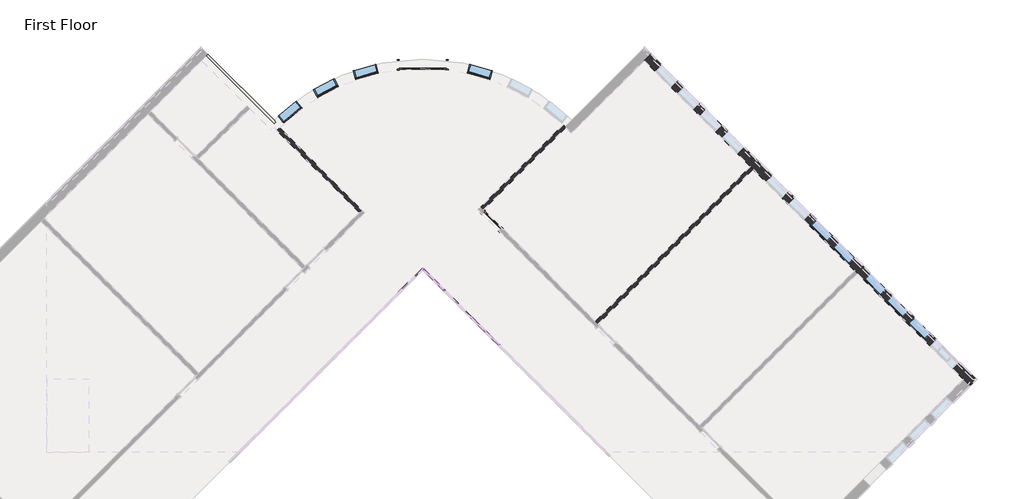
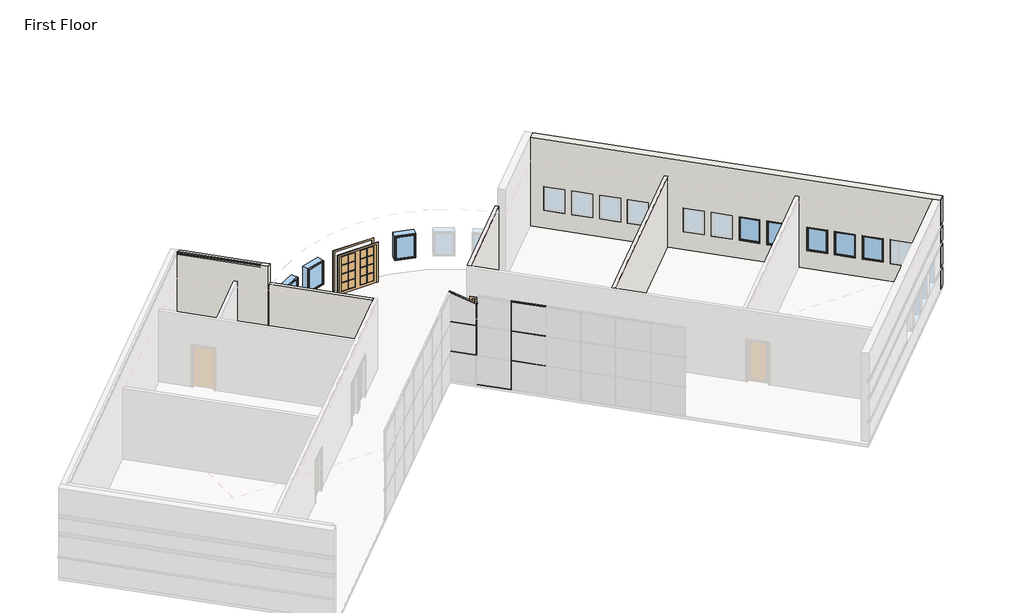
# One storey, part 4 of 5: 20 members, 9 windows, 5 walls, 2 doors.
"""IFC4 building model written with IfcOpenShell, lengths in millimetres."""

from ifc_helpers import new_model, si_unit, point, frame, frame_2d, origin, origin_with_axes, place, context, project, spatial, polyline, circle_curve, ellipse_curve, trimmed, segment, composite_curve, outline, extrude, faceted_brep, transform, mapped, element, save
from ifc_brep_helpers import plane_surface, cylinder_surface, revolved_surface, advanced_brep
from components import door_74f1c961, door_5f5b55da, member_b8a5b5c0, member_155beb68, member_42be4715, member_a3731390, member_6121af53, member_b87a50da, member_76f0c52a, member_beb33b19, member_b73a8a31, member_4ed907bf, window_15c49d37, window_0e2fc6ce

model = new_model("IFC4")

# Units and contexts
model_context = context("Model", 3, world=origin())
ifc_project = project(units=[si_unit("LENGTHUNIT", "METRE", prefix="MILLI")], contexts=[model_context])

# Site, building, storey
site = spatial("IfcSite", under=ifc_project)
building = spatial("IfcBuilding", under=site)
storey = spatial("IfcBuildingStorey", under=building, Name="First Floor", Elevation=0.0)

# Doors
placement = place(None, origin())
door_shape = door_74f1c961(model_context)
element("IfcDoor", 1, ObjectType="Double-Glass 2 : 72\" x 78\"", at=placement, inside=storey, context=model_context, shape_type="MappedRepresentation", body=[
    mapped(door_shape, transform((-3443.7425556, 10275.0854226, 0.0), x_axis=(-0.9999999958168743, -9.146721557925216e-05, 0.0), y_axis=(9.146721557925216e-05, -0.9999999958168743, 0.0), z_axis=(0.0, 0.0, 1.0))),
])
door_2_shape = door_5f5b55da(model_context)
element("IfcDoor", 2, ObjectType="Single-Glass 1 : 36\" x 84\"", at=placement, inside=storey, context=model_context, shape_type="MappedRepresentation", body=[
    mapped(door_2_shape, transform((-756.7914834, 4195.5530635, 0.0), x_axis=(-0.7071067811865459, 0.7071067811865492, 0.0), y_axis=(-0.7071067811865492, -0.7071067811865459, 0.0), z_axis=(0.0, 0.0, 1.0))),
])

# Members
member_shape = member_b8a5b5c0(model_context)
element("IfcMember", 3, ObjectType="Rectangular Mullion : 1.5\" x 2.5\" Rectangular", at=placement, inside=storey, context=model_context, shape_type="MappedRepresentation", body=[
    mapped(member_shape, transform((-3469.951364, 2295.1063619, 0.0), x_axis=(0.0, 0.0, -1.0), y_axis=(-0.7071067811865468, 0.7071067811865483, 0.0), z_axis=(0.7071067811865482, 0.7071067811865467, 0.0))),
])
member_2_shape = member_155beb68(model_context)
element("IfcMember", 4, ObjectType="Rectangular Mullion : 1.5\" x 2.5\" Rectangular", at=placement, inside=storey, context=model_context, shape_type="MappedRepresentation", body=[
    mapped(member_2_shape, transform((-1536.9512339, 415.9877686, 0.0), x_axis=(-0.7071067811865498, 0.7071067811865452, 0.0), y_axis=(0.7071067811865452, 0.7071067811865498, 0.0), z_axis=(0.0, 0.0, -1.0))),
])
member_3_shape = member_42be4715(model_context)
element("IfcMember", 5, ObjectType="Rectangular Mullion : 1.5\" x 2.5\" Rectangular", at=placement, inside=storey, context=model_context, shape_type="MappedRepresentation", body=[
    mapped(member_3_shape, transform((-1523.4808497, 402.5173844, 1524.0), x_axis=(0.0, 0.0, 1.0), y_axis=(0.7071067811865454, 0.7071067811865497, 0.0), z_axis=(-0.7071067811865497, 0.7071067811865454, 0.0))),
])
element("IfcMember", 6, ObjectType="Rectangular Mullion : 1.5\" x 2.5\" Rectangular", at=placement, inside=storey, context=model_context, shape_type="MappedRepresentation", body=[
    mapped(member_3_shape, transform((-1523.4808497, 402.5173844, 3048.0), x_axis=(0.0, 0.0, 1.0), y_axis=(0.7071067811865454, 0.7071067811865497, 0.0), z_axis=(-0.7071067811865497, 0.7071067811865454, 0.0))),
])
member_4_shape = member_a3731390(model_context)
element("IfcMember", 7, ObjectType="Rectangular Mullion : 1.5\" x 2.5\" Rectangular", at=placement, inside=storey, context=model_context, shape_type="MappedRepresentation", body=[
    mapped(member_4_shape, transform((-3416.0698272, 2295.1063619, 1524.0), x_axis=(0.0, 0.0, 1.0), y_axis=(0.7071067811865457, 0.7071067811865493, 0.0), z_axis=(-0.7071067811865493, 0.7071067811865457, 0.0))),
])
element("IfcMember", 8, ObjectType="Rectangular Mullion : 1.5\" x 2.5\" Rectangular", at=placement, inside=storey, context=model_context, shape_type="MappedRepresentation", body=[
    mapped(member_4_shape, transform((-3416.0698272, 2295.1063619, 3048.0), x_axis=(0.0, 0.0, 1.0), y_axis=(0.7071067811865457, 0.7071067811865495, 0.0), z_axis=(-0.7071067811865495, 0.7071067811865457, 0.0))),
])
member_5_shape = member_6121af53(model_context)
element("IfcMember", 9, ObjectType="Rectangular Mullion : 1.5\" x 2.5\" Rectangular", at=placement, inside=storey, context=model_context, shape_type="MappedRepresentation", body=[
    mapped(member_5_shape, transform((-1550.4216181, 429.4581527, 0.0), x_axis=(0.0, 0.0, -1.0), y_axis=(0.7071067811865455, 0.7071067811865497, 0.0), z_axis=(0.7071067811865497, -0.7071067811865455, 0.0))),
])
element("IfcMember", 10, ObjectType="Rectangular Mullion : 1.5\" x 2.5\" Rectangular", at=placement, inside=storey, context=model_context, shape_type="MappedRepresentation", body=[
    mapped(member_5_shape, transform((-1523.4808497, 402.5173844, 4572.0), x_axis=(0.0, 0.0, 1.0), y_axis=(0.7071067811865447, 0.7071067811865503, 0.0), z_axis=(-0.7071067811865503, 0.7071067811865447, 0.0))),
])
element("IfcMember", 11, ObjectType="Rectangular Mullion : 1.5\" x 2.5\" Rectangular", at=placement, inside=storey, context=model_context, shape_type="MappedRepresentation", body=[
    mapped(member_2_shape, transform((-1536.9512339, 415.9877686, 1524.0), x_axis=(-0.7071067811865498, 0.7071067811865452, 0.0), y_axis=(0.7071067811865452, 0.7071067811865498, 0.0), z_axis=(0.0, 0.0, -1.0))),
])
element("IfcMember", 12, ObjectType="Rectangular Mullion : 1.5\" x 2.5\" Rectangular", at=placement, inside=storey, context=model_context, shape_type="MappedRepresentation", body=[
    mapped(member_2_shape, transform((-2614.5819684, 1493.6185031, 1524.0), x_axis=(-0.7071067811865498, 0.7071067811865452, 0.0), y_axis=(0.7071067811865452, 0.7071067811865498, 0.0), z_axis=(0.0, 0.0, -1.0))),
])
element("IfcMember", 13, ObjectType="Rectangular Mullion : 1.5\" x 2.5\" Rectangular", at=placement, inside=storey, context=model_context, shape_type="MappedRepresentation", body=[
    mapped(member_2_shape, transform((-1536.9512339, 415.9877686, 3048.0), x_axis=(-0.7071067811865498, 0.7071067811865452, 0.0), y_axis=(0.7071067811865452, 0.7071067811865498, 0.0), z_axis=(0.0, 0.0, -1.0))),
])
member_6_shape = member_b87a50da(model_context)
element("IfcMember", 14, ObjectType="Rectangular Mullion : 1.5\" x 2.5\" Rectangular", at=placement, inside=storey, context=model_context, shape_type="MappedRepresentation", body=[
    mapped(member_6_shape, transform((-3443.0105956, 2322.0471303, 4572.0), x_axis=(0.7071067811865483, 0.7071067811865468, 0.0), y_axis=(-0.7071067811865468, 0.7071067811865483, 0.0), z_axis=(0.0, 0.0, 1.0))),
])
element("IfcMember", 15, ObjectType="Rectangular Mullion : 1.5\" x 2.5\" Rectangular", at=placement, inside=storey, context=model_context, shape_type="MappedRepresentation", body=[
    mapped(member_6_shape, transform((-3443.0105956, 2322.0471303, 0.0), x_axis=(-0.7071067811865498, 0.7071067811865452, 0.0), y_axis=(0.7071067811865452, 0.7071067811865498, 0.0), z_axis=(0.0, 0.0, -1.0))),
])
element("IfcMember", 16, ObjectType="Rectangular Mullion : 1.5\" x 2.5\" Rectangular", at=placement, inside=storey, context=model_context, shape_type="MappedRepresentation", body=[
    mapped(member_6_shape, transform((-3443.0105956, 2322.0471303, 1524.0), x_axis=(-0.7071067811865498, 0.7071067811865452, 0.0), y_axis=(0.7071067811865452, 0.7071067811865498, 0.0), z_axis=(0.0, 0.0, -1.0))),
])
element("IfcMember", 17, ObjectType="Rectangular Mullion : 1.5\" x 2.5\" Rectangular", at=placement, inside=storey, context=model_context, shape_type="MappedRepresentation", body=[
    mapped(member_6_shape, transform((-3443.0105956, 2322.0471303, 1524.0), x_axis=(0.7071067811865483, 0.7071067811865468, 0.0), y_axis=(-0.7071067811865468, 0.7071067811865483, 0.0), z_axis=(0.0, 0.0, 1.0))),
])
element("IfcMember", 18, ObjectType="Rectangular Mullion : 1.5\" x 2.5\" Rectangular", at=placement, inside=storey, context=model_context, shape_type="MappedRepresentation", body=[
    mapped(member_6_shape, transform((-3443.0105956, 2322.0471303, 3048.0), x_axis=(0.7071067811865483, 0.7071067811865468, 0.0), y_axis=(-0.7071067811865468, 0.7071067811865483, 0.0), z_axis=(0.0, 0.0, 1.0))),
])
member_7_shape = member_76f0c52a(model_context)
element("IfcMember", 19, ObjectType="Rectangular Mullion : 1.5\" x 2.5\" Rectangular", at=placement, inside=storey, context=model_context, shape_type="MappedRepresentation", body=[
    mapped(member_7_shape, transform((-3443.0105956, 2322.0471303, 4572.0), x_axis=(0.22360679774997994, -0.2236067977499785, 0.9486832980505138), y_axis=(0.7071067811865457, 0.7071067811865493, 0.0), z_axis=(-0.6708203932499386, 0.6708203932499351, 0.3162277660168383))),
])
member_8_shape = member_beb33b19(model_context)
element("IfcMember", 20, ObjectType="Rectangular Mullion : 1.5\" x 2.5\" Rectangular", at=placement, inside=storey, context=model_context, shape_type="MappedRepresentation", body=[
    mapped(member_8_shape, transform((-2614.5819684, 1493.6185031, 4181.475), x_axis=(0.22360679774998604, -0.22360679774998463, 0.9486832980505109), y_axis=(0.7071067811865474, 0.7071067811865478, 0.0), z_axis=(-0.6708203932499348, 0.6708203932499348, 0.31622776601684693))),
])
member_9_shape = member_b73a8a31(model_context)
element("IfcMember", 21, ObjectType="Rectangular Mullion : 1.5\" x 2.5\" Rectangular", at=placement, inside=storey, context=model_context, shape_type="MappedRepresentation", body=[
    mapped(member_9_shape, transform((-2614.5819684, 1493.6185031, 3048.0), x_axis=(-0.7071067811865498, 0.7071067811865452, 0.0), y_axis=(0.7071067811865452, 0.7071067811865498, 0.0), z_axis=(0.0, 0.0, -1.0))),
])
member_10_shape = member_4ed907bf(model_context)
element("IfcMember", 22, ObjectType="Rectangular Mullion : 1.5\" x 2.5\" Rectangular", at=placement, inside=storey, context=model_context, shape_type="MappedRepresentation", body=[
    mapped(member_10_shape, transform((-3443.0105956, 2322.0471303, 3048.0), x_axis=(-0.7071067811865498, 0.7071067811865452, 0.0), y_axis=(0.7071067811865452, 0.7071067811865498, 0.0), z_axis=(0.0, 0.0, -1.0))),
])

# Walls
element("IfcWall", 23, ObjectType="Exterior - Split Face and CMU on Mtl. Stud", at=placement, inside=storey, context=model_context, shape_type="Brep", body=[
    faceted_brep([(5178.0352806, 10444.6887918, 0.0), (9308.9530963, 6313.7709761, 0.0), (9418.9612338, 6203.7628386, 0.0), (13370.2739271, 2252.4501453, 0.0), (13480.2820645, 2142.4420078, 0.0), (17611.1998802, -1988.4758079, 0.0), (17860.4019876, -2237.6779152, 0.0), (17860.4019876, -2237.6779152, 1016.0), (17795.2951307, -2172.5710583, 1016.0), (17795.2951307, -2172.5710583, 1085.85), (17860.4019876, -2237.6779152, 1085.85), (17860.4019876, -2237.6779152, 2133.6), (17795.2951307, -2172.5710583, 2133.6), (17795.2951307, -2172.5710583, 2336.8), (17860.4019876, -2237.6779152, 2336.8), (17860.4019876, -2237.6779152, 3048.0), (17795.2951307, -2172.5710583, 3048.0), (17795.2951307, -2172.5710583, 3251.2), (17860.4019876, -2237.6779152, 3251.2), (17860.4019876, -2237.6779152, 4572.0), (17611.1998802, -1988.4758079, 4572.0), (5178.0352806, 10444.6887918, 4572.0), (17196.9855667, -1574.2614943, 2133.6), (17196.9855667, -1574.2614943, 914.4), (16301.2050186, -678.4809462, 914.4), (16301.2050186, -678.4809462, 2133.6), (5592.2495942, 10030.4744782, 914.4), (5592.2495942, 10030.4744782, 2133.6), (6238.8280349, 9383.8960375, 2133.6), (6238.8280349, 9383.8960375, 914.4), (6454.3541818, 9168.3698906, 914.4), (6454.3541818, 9168.3698906, 2133.6), (7100.9326225, 8521.7914498, 2133.6), (7100.9326225, 8521.7914498, 914.4), (7316.4587694, 8306.2653029, 914.4), (7316.4587694, 8306.2653029, 2133.6), (7963.0372102, 7659.6868622, 2133.6), (7963.0372102, 7659.6868622, 914.4), (8178.5633571, 7444.1607153, 914.4), (8178.5633571, 7444.1607153, 2133.6), (8825.1417978, 6797.5822746, 2133.6), (8825.1417978, 6797.5822746, 914.4), (10549.350973, 5073.3730993, 2133.6), (10549.350973, 5073.3730993, 914.4), (9902.7725323, 5719.9515401, 914.4), (9902.7725323, 5719.9515401, 2133.6), (11411.4555607, 4211.2685117, 2133.6), (11411.4555607, 4211.2685117, 914.4), (10764.8771199, 4857.8469524, 914.4), (10764.8771199, 4857.8469524, 2133.6), (12273.5601483, 3349.1639241, 2133.6), (12273.5601483, 3349.1639241, 914.4), (11626.9817076, 3995.7423648, 914.4), (11626.9817076, 3995.7423648, 2133.6), (13135.6647359, 2487.0593365, 2133.6), (13135.6647359, 2487.0593365, 914.4), (12489.0862952, 3133.6377772, 914.4), (12489.0862952, 3133.6377772, 2133.6), (15439.100431, 183.6236414, 914.4), (15439.100431, 183.6236414, 2133.6), (16085.6788717, -462.9547993, 2133.6), (16085.6788717, -462.9547993, 914.4), (14576.9958433, 1045.728229, 914.4), (14576.9958433, 1045.728229, 2133.6), (15223.574284, 399.1497883, 2133.6), (15223.574284, 399.1497883, 914.4), (13714.8912557, 1907.8328167, 914.4), (13714.8912557, 1907.8328167, 2133.6), (14361.4696964, 1261.2543759, 2133.6), (14361.4696964, 1261.2543759, 914.4), (5427.237388, 10693.8908991, 4572.0), (18109.604095, -1988.4758079, 4572.0), (18109.604095, -1988.4758079, 3251.2), (5427.237388, 10693.8908991, 3251.2), (18109.604095, -1988.4758079, 0.0), (5427.237388, 10693.8908991, 0.0), (5427.237388, 10693.8908991, 1016.0), (5841.4517016, 10279.6765855, 1016.0), (5841.4517016, 10279.6765855, 914.4), (6488.0301423, 9633.0981448, 914.4), (6488.0301423, 9633.0981448, 1016.0), (6703.5562892, 9417.5719979, 1016.0), (6703.5562892, 9417.5719979, 914.4), (7350.1347299, 8770.9935572, 914.4), (7350.1347299, 8770.9935572, 1016.0), (7565.6608768, 8555.4674103, 1016.0), (7565.6608768, 8555.4674103, 914.4), (8212.2393175, 7908.8889696, 914.4), (8212.2393175, 7908.8889696, 1016.0), (8427.7654644, 7693.3628227, 1016.0), (8427.7654644, 7693.3628227, 914.4), (9074.3439051, 7046.7843819, 914.4), (9074.3439051, 7046.7843819, 1016.0), (10151.9746397, 5969.1536474, 1016.0), (10151.9746397, 5969.1536474, 914.4), (10798.5530804, 5322.5752067, 914.4), (10798.5530804, 5322.5752067, 1016.0), (11014.0792273, 5107.0490598, 1016.0), (11014.0792273, 5107.0490598, 914.4), (11660.657668, 4460.4706191, 914.4), (11660.657668, 4460.4706191, 1016.0), (11876.1838149, 4244.9444722, 1016.0), (11876.1838149, 4244.9444722, 914.4), (12522.7622556, 3598.3660315, 914.4), (12522.7622556, 3598.3660315, 1016.0), (12738.2884025, 3382.8398846, 1016.0), (12738.2884025, 3382.8398846, 914.4), (13384.8668433, 2736.2614438, 914.4), (13384.8668433, 2736.2614438, 1016.0), (13964.0933631, 2157.034924, 1016.0), (13964.0933631, 2157.034924, 914.4), (14610.6718038, 1510.4564833, 914.4), (14610.6718038, 1510.4564833, 1016.0), (14826.1979507, 1294.9303364, 1016.0), (14826.1979507, 1294.9303364, 914.4), (15472.7763914, 648.3518957, 914.4), (15472.7763914, 648.3518957, 1016.0), (15688.3025383, 432.8257488, 1016.0), (15688.3025383, 432.8257488, 914.4), (16334.880979, -213.7526919, 914.4), (16334.880979, -213.7526919, 1016.0), (16550.4071259, -429.2788388, 1016.0), (16550.4071259, -429.2788388, 914.4), (17446.187674, -1325.0593869, 914.4), (17446.187674, -1325.0593869, 1016.0), (18109.604095, -1988.4758079, 1016.0), (18109.604095, -1988.4758079, 1085.85), (17446.187674, -1325.0593869, 1085.85), (17446.187674, -1325.0593869, 2133.6), (18109.604095, -1988.4758079, 2133.6), (5841.4517016, 10279.6765855, 1085.85), (5427.237388, 10693.8908991, 1085.85), (5427.237388, 10693.8908991, 2133.6), (5841.4517016, 10279.6765855, 2133.6), (18109.604095, -1988.4758079, 2336.8), (5427.237388, 10693.8908991, 2336.8), (5427.237388, 10693.8908991, 3048.0), (18109.604095, -1988.4758079, 3048.0), (16334.880979, -213.7526919, 2133.6), (16550.4071259, -429.2788388, 2133.6), (16550.4071259, -429.2788388, 1085.85), (16334.880979, -213.7526919, 1085.85), (6488.0301423, 9633.0981448, 1085.85), (6488.0301423, 9633.0981448, 2133.6), (6703.5562892, 9417.5719979, 2133.6), (6703.5562892, 9417.5719979, 1085.85), (15472.7763914, 648.3518957, 2133.6), (15688.3025383, 432.8257488, 2133.6), (15688.3025383, 432.8257488, 1085.85), (15472.7763914, 648.3518957, 1085.85), (7350.1347299, 8770.9935572, 1085.85), (7350.1347299, 8770.9935572, 2133.6), (7565.6608768, 8555.4674103, 2133.6), (7565.6608768, 8555.4674103, 1085.85), (14610.6718038, 1510.4564833, 2133.6), (14826.1979507, 1294.9303364, 2133.6), (14826.1979507, 1294.9303364, 1085.85), (14610.6718038, 1510.4564833, 1085.85), (8212.2393175, 7908.8889696, 1085.85), (8212.2393175, 7908.8889696, 2133.6), (8427.7654644, 7693.3628227, 2133.6), (8427.7654644, 7693.3628227, 1085.85), (13384.8668433, 2736.2614438, 2133.6), (13964.0933631, 2157.034924, 2133.6), (13964.0933631, 2157.034924, 1085.85), (13384.8668433, 2736.2614438, 1085.85), (9074.3439051, 7046.7843819, 1085.85), (9074.3439051, 7046.7843819, 2133.6), (10151.9746397, 5969.1536474, 2133.6), (10151.9746397, 5969.1536474, 1085.85), (12522.7622556, 3598.3660315, 2133.6), (12738.2884025, 3382.8398846, 2133.6), (12738.2884025, 3382.8398846, 1085.85), (12522.7622556, 3598.3660315, 1085.85), (10798.5530804, 5322.5752067, 1085.85), (10798.5530804, 5322.5752067, 2133.6), (11014.0792273, 5107.0490598, 2133.6), (11014.0792273, 5107.0490598, 1085.85), (11660.657668, 4460.4706191, 1085.85), (11660.657668, 4460.4706191, 2133.6), (11876.1838149, 4244.9444722, 2133.6), (11876.1838149, 4244.9444722, 1085.85), (5362.1305311, 10628.7840422, 0.0), (18044.4972381, -2053.5826647, 0.0), (17979.3903812, -1988.4758079, 1085.85), (17381.0808171, -1390.1662438, 1085.85), (17381.0808171, -1390.1662438, 1016.0), (17979.3903812, -1988.4758079, 1016.0), (17979.3903812, -1988.4758079, 2133.6), (17381.0808171, -1390.1662438, 2133.6), (16485.3002691, -494.3856957, 2133.6), (16269.7741222, -278.8595488, 2133.6), (15623.1956814, 367.7188919, 2133.6), (15407.6695345, 583.2450388, 2133.6), (14761.0910938, 1229.8234795, 2133.6), (14545.5649469, 1445.3496264, 2133.6), (13898.9865062, 2091.9280671, 2133.6), (13319.7599864, 2671.154587, 2133.6), (12673.1815457, 3317.7330277, 2133.6), (12457.6553988, 3533.2591746, 2133.6), (11811.076958, 4179.8376153, 2133.6), (11595.5508111, 4395.3637622, 2133.6), (10948.9723704, 5041.9422029, 2133.6), (10733.4462235, 5257.4683498, 2133.6), (10086.8677828, 5904.0467905, 2133.6), (9009.2370483, 6981.6775251, 2133.6), (8362.6586076, 7628.2559658, 2133.6), (8147.1324606, 7843.7821127, 2133.6), (7500.5540199, 8490.3605534, 2133.6), (7285.027873, 8705.8867003, 2133.6), (6638.4494323, 9352.465141, 2133.6), (6422.9232854, 9567.9912879, 2133.6), (5776.3448447, 10214.5697287, 2133.6), (5362.1305311, 10628.7840422, 2133.6), (5362.1305311, 10628.7840422, 2336.8), (17979.3903812, -1988.4758079, 2336.8), (17979.3903812, -1988.4758079, 3251.2), (17979.3903812, -1988.4758079, 3048.0), (5362.1305311, 10628.7840422, 3048.0), (5362.1305311, 10628.7840422, 3251.2), (5362.1305311, 10628.7840422, 1085.85), (5362.1305311, 10628.7840422, 1016.0), (5776.3448447, 10214.5697287, 1085.85), (5776.3448447, 10214.5697287, 1016.0), (16269.7741222, -278.8595488, 1085.85), (16485.3002691, -494.3856957, 1085.85), (16485.3002691, -494.3856957, 1016.0), (16269.7741222, -278.8595488, 1016.0), (6422.9232854, 9567.9912879, 1085.85), (6422.9232854, 9567.9912879, 1016.0), (15407.6695345, 583.2450388, 1085.85), (15623.1956814, 367.7188919, 1085.85), (15623.1956814, 367.7188919, 1016.0), (15407.6695345, 583.2450388, 1016.0), (6638.4494323, 9352.465141, 1016.0), (6638.4494323, 9352.465141, 1085.85), (7285.027873, 8705.8867003, 1085.85), (7285.027873, 8705.8867003, 1016.0), (14545.5649469, 1445.3496264, 1085.85), (14761.0910938, 1229.8234795, 1085.85), (14761.0910938, 1229.8234795, 1016.0), (14545.5649469, 1445.3496264, 1016.0), (7500.5540199, 8490.3605534, 1016.0), (7500.5540199, 8490.3605534, 1085.85), (8147.1324606, 7843.7821127, 1085.85), (8147.1324606, 7843.7821127, 1016.0), (13319.7599864, 2671.154587, 1085.85), (13898.9865062, 2091.9280671, 1085.85), (13898.9865062, 2091.9280671, 1016.0), (13319.7599864, 2671.154587, 1016.0), (8362.6586076, 7628.2559658, 1016.0), (8362.6586076, 7628.2559658, 1085.85), (9009.2370483, 6981.6775251, 1085.85), (9009.2370483, 6981.6775251, 1016.0), (12457.6553988, 3533.2591746, 1085.85), (12673.1815457, 3317.7330277, 1085.85), (12673.1815457, 3317.7330277, 1016.0), (12457.6553988, 3533.2591746, 1016.0), (10733.4462235, 5257.4683498, 1085.85), (10733.4462235, 5257.4683498, 1016.0), (10086.8677828, 5904.0467905, 1016.0), (10086.8677828, 5904.0467905, 1085.85), (11595.5508111, 4395.3637622, 1085.85), (11595.5508111, 4395.3637622, 1016.0), (10948.9723704, 5041.9422029, 1016.0), (10948.9723704, 5041.9422029, 1085.85), (11811.076958, 4179.8376153, 1016.0), (11811.076958, 4179.8376153, 1085.85)], [[[0, 1, 2, 3, 4, 5, 6, 7, 8, 9, 10, 11, 12, 13, 14, 15, 16, 17, 18, 19, 20, 21], [22, 23, 24, 25], [26, 27, 28, 29], [30, 31, 32, 33], [34, 35, 36, 37], [38, 39, 40, 41], [42, 43, 44, 45], [46, 47, 48, 49], [50, 51, 52, 53], [54, 55, 56, 57], [58, 59, 60, 61], [62, 63, 64, 65], [66, 67, 68, 69]], [[70, 71, 72, 73]], [[74, 75, 76, 77, 78, 79, 80, 81, 82, 83, 84, 85, 86, 87, 88, 89, 90, 91, 92, 93, 94, 95, 96, 97, 98, 99, 100, 101, 102, 103, 104, 105, 106, 107, 108, 109, 110, 111, 112, 113, 114, 115, 116, 117, 118, 119, 120, 121, 122, 123, 124, 125]], [[126, 127, 128, 129]], [[130, 131, 132, 133]], [[134, 135, 136, 137]], [[138, 139, 140, 141]], [[142, 143, 144, 145]], [[146, 147, 148, 149]], [[150, 151, 152, 153]], [[154, 155, 156, 157]], [[158, 159, 160, 161]], [[162, 163, 164, 165]], [[166, 167, 168, 169]], [[170, 171, 172, 173]], [[174, 175, 176, 177]], [[178, 179, 180, 181]], [[21, 20, 19, 71, 70]], [[6, 5, 4, 3, 2, 1, 0, 182, 183]], [[184, 185, 127, 126, 10, 9]], [[186, 187, 8, 7, 125, 124]], [[185, 184, 187, 186]], [[188, 189, 190, 191, 192, 193, 194, 195, 196, 197, 198, 199, 200, 201, 202, 203, 204, 205, 206, 207, 208, 209, 210, 211, 212, 213, 214, 215]], [[216, 217, 218, 219]], [[0, 21, 70, 73, 219, 218, 136, 135, 214, 213, 132, 131, 220, 221, 76, 75, 182]], [[75, 74, 183, 182]], [[131, 130, 222, 220]], [[77, 76, 221, 223]], [[132, 213, 212, 133]], [[189, 188, 12, 11, 129, 128]], [[139, 138, 191, 190]], [[143, 211, 210, 144]], [[147, 146, 193, 192]], [[151, 209, 208, 152]], [[155, 154, 195, 194]], [[159, 207, 206, 160]], [[163, 162, 197, 196]], [[167, 205, 204, 168]], [[171, 170, 199, 198]], [[201, 200, 180, 179]], [[203, 202, 176, 175]], [[215, 214, 135, 134, 14, 13]], [[218, 217, 16, 15, 137, 136]], [[17, 216, 219, 73, 72, 18]], [[71, 19, 18, 72]], [[6, 183, 74, 125, 7]], [[14, 134, 137, 15]], [[11, 10, 126, 129]], [[188, 215, 13, 12]], [[217, 216, 17, 16]], [[23, 123, 122, 24]], [[23, 22, 189, 128, 127, 185, 186, 124, 123]], [[189, 22, 25, 190]], [[224, 225, 226, 227]], [[27, 26, 78, 77, 223, 222, 130, 133, 212]], [[79, 78, 26, 29]], [[29, 28, 211, 143, 142, 228, 229, 80, 79]], [[28, 27, 212, 211]], [[230, 231, 232, 233]], [[225, 224, 141, 140]], [[227, 226, 121, 120]], [[31, 30, 82, 81, 234, 235, 145, 144, 210]], [[83, 82, 30, 33]], [[33, 32, 209, 151, 150, 236, 237, 84, 83]], [[32, 31, 210, 209]], [[238, 239, 240, 241]], [[231, 230, 149, 148]], [[233, 232, 117, 116]], [[35, 34, 86, 85, 242, 243, 153, 152, 208]], [[87, 86, 34, 37]], [[37, 36, 207, 159, 158, 244, 245, 88, 87]], [[36, 35, 208, 207]], [[246, 247, 248, 249]], [[239, 238, 157, 156]], [[241, 240, 113, 112]], [[39, 38, 90, 89, 250, 251, 161, 160, 206]], [[91, 90, 38, 41]], [[41, 40, 205, 167, 166, 252, 253, 92, 91]], [[40, 39, 206, 205]], [[254, 255, 256, 257]], [[247, 246, 165, 164]], [[249, 248, 109, 108]], [[43, 42, 203, 175, 174, 258, 259, 96, 95]], [[44, 43, 95, 94]], [[45, 44, 94, 93, 260, 261, 169, 168, 204]], [[42, 45, 204, 203]], [[47, 46, 201, 179, 178, 262, 263, 100, 99]], [[48, 47, 99, 98]], [[49, 48, 98, 97, 264, 265, 177, 176, 202]], [[46, 49, 202, 201]], [[51, 50, 199, 170, 173, 254, 257, 104, 103]], [[52, 51, 103, 102]], [[53, 52, 102, 101, 266, 267, 181, 180, 200]], [[50, 53, 200, 199]], [[55, 54, 197, 162, 165, 246, 249, 108, 107]], [[56, 55, 107, 106]], [[57, 56, 106, 105, 256, 255, 172, 171, 198]], [[54, 57, 198, 197]], [[244, 251, 250, 245]], [[261, 252, 166, 169]], [[253, 260, 93, 92]], [[252, 261, 260, 253]], [[265, 258, 174, 177]], [[259, 264, 97, 96]], [[258, 265, 264, 259]], [[267, 262, 178, 181]], [[263, 266, 101, 100]], [[262, 267, 266, 263]], [[255, 254, 173, 172]], [[257, 256, 105, 104]], [[24, 122, 121, 226, 225, 140, 139, 190, 25]], [[59, 58, 118, 117, 232, 231, 148, 147, 192]], [[119, 118, 58, 61]], [[61, 60, 191, 138, 141, 224, 227, 120, 119]], [[60, 59, 192, 191]], [[63, 62, 114, 113, 240, 239, 156, 155, 194]], [[115, 114, 62, 65]], [[65, 64, 193, 146, 149, 230, 233, 116, 115]], [[64, 63, 194, 193]], [[67, 66, 110, 109, 248, 247, 164, 163, 196]], [[111, 110, 66, 69]], [[69, 68, 195, 154, 157, 238, 241, 112, 111]], [[68, 67, 196, 195]], [[220, 222, 223, 221]], [[235, 228, 142, 145]], [[229, 234, 81, 80]], [[228, 235, 234, 229]], [[243, 236, 150, 153]], [[237, 242, 85, 84]], [[236, 243, 242, 237]], [[251, 244, 158, 161]], [[245, 250, 89, 88]], [[187, 184, 9, 8]]]),
])
element("IfcWall", 24, ObjectType="Exterior - Split Face and CMU on Mtl. Stud", at=placement, inside=storey, context=model_context, shape_type="AdvancedBrep", body=[
    advanced_brep(
    [(-9232.9945042, 7613.6268242, 0.0), (-9232.9945042, 7613.6268242, 4689.475), (-12064.0564718, 10444.6887918, 4689.475), (-12064.0564718, 10444.6887918, 4639.3965909), (-9486.6705627, 7867.3028826, 4639.3965909), (-9486.6705627, 7867.3028826, 4572.0), (-12064.0564718, 10444.6887918, 4572.0), (-12064.0564718, 10444.6887918, 0.0), (-10303.9262721, 8684.558592, 0.0), (-10193.9181346, 8574.5504545, 0.0), (-11814.8543645, 10693.8908991, 0.0), (-11814.8543645, 10693.8908991, 1016.0), (-9237.4684553, 8116.50499, 1016.0), (-9172.3610055, 8051.3975402, 1016.0), (-9172.3610055, 8051.3975402, 1085.85), (-9237.4684553, 8116.50499, 1085.85), (-11814.8543645, 10693.8908991, 1085.85), (-11814.8543645, 10693.8908991, 2133.6), (-9237.4684553, 8116.50499, 2133.6), (-9172.3610055, 8051.3975402, 2133.6), (-9172.3610055, 8051.3975402, 2336.8), (-9237.4684553, 8116.50499, 2336.8), (-11814.8543645, 10693.8908991, 2336.8), (-11814.8543645, 10693.8908991, 3048.0), (-9237.4684553, 8116.50499, 3048.0), (-9172.3610055, 8051.3975402, 3048.0), (-9172.3610055, 8051.3975402, 3251.2), (-9237.4684553, 8116.50499, 3251.2), (-11814.8543645, 10693.8908991, 3251.2), (-11814.8543645, 10693.8908991, 4572.0), (-9237.4684553, 8116.50499, 4572.0), (-8988.2640035, 7867.3005381, 4572.0), (-8988.2640035, 7867.3005381, 0.0), (-9237.4684553, 8116.50499, 0.0), (-9237.3789518, 7986.2017727, 1016.0), (-11879.9612214, 10628.7840422, 1016.0), (-11879.9612214, 10628.7840422, 1085.85), (-9237.3789518, 7986.2017727, 1085.85), (-9237.3789518, 7986.2017727, 2133.6), (-11879.9612214, 10628.7840422, 2133.6), (-11879.9612214, 10628.7840422, 2336.8), (-9237.3789518, 7986.2017727, 2336.8), (-9237.3789518, 7986.2017727, 3048.0), (-11879.9612214, 10628.7840422, 3048.0), (-11879.9612214, 10628.7840422, 3251.2), (-9237.3789518, 7986.2017727, 3251.2), (-9411.2798641, 7942.6935812, 4653.9354839), (-11988.6657733, 10520.0794903, 4653.9354839), (-9132.9284077, 7720.1066184, 0.0), (-9024.2284636, 7831.4229492, 0.0)],
    [
        (0, 1),
        (1, 2),
        (2, 3),
        (3, 4),
        (4, 5),
        (5, 6),
        (6, 7),
        (7, 8),
        (8, 9),
        (9, 0),
        (10, 11),
        (11, 12),
        (12, 13),
        (13, 14),
        (14, 15),
        (15, 16),
        (16, 17),
        (17, 18),
        (18, 19),
        (19, 20),
        (20, 21),
        (21, 22),
        (22, 23),
        (23, 24),
        (24, 25),
        (25, 26),
        (26, 27),
        (27, 28),
        (28, 29),
        (29, 30),
        (30, 31),
        (31, 32),
        (32, 33),
        (33, 10),
        (34, 35),
        (35, 36),
        (36, 37),
        (37, 34),
        (38, 39),
        (39, 40),
        (40, 41),
        (41, 38),
        (42, 43),
        (43, 44),
        (44, 45),
        (45, 42),
        (4, 46),
        (46, 30),
        (30, 5),
        (10, 7),
        (6, 29),
        (28, 44),
        (43, 23),
        (22, 40),
        (39, 17),
        (16, 36),
        (35, 11),
        (2, 47),
        (47, 3),
        (14, 37, circle_curve(frame((-3443.0105956, 2272.6557216, 1085.85), z_axis=(0.0, 0.0, 1.0), x_axis=(-0.7040995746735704, 0.7101012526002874, 0.0)), 8137.525)),
        (34, 13, circle_curve(frame((-3443.0105956, 2272.6557216, 1016.0), z_axis=(0.0, 0.0, -1.0), x_axis=(-0.7040995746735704, 0.7101012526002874, 0.0)), 8137.525)),
        (38, 19, circle_curve(frame((-3443.0105956, 2272.6557216, 2133.6), z_axis=(0.0, 0.0, -1.0), x_axis=(-0.712055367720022, 0.7021233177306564, 0.0)), 8137.525)),
        (41, 20, circle_curve(frame((-3443.0105956, 2272.6557216, 2336.8), z_axis=(0.0, 0.0, -1.0), x_axis=(-0.712055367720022, 0.7021233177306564, 0.0)), 8137.525)),
        (42, 25, circle_curve(frame((-3443.0105956, 2272.6557216, 3048.0), z_axis=(0.0, 0.0, -1.0), x_axis=(-0.712055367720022, 0.7021233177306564, 0.0)), 8137.525)),
        (45, 26, circle_curve(frame((-3443.0105956, 2272.6557216, 3251.2), z_axis=(0.0, 0.0, -1.0), x_axis=(-0.712055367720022, 0.7021233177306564, 0.0)), 8137.525)),
        (0, 48, circle_curve(frame((-3443.0105956, 2272.6557216, 0.0), z_axis=(0.0, 0.0, -1.0), x_axis=(1.0, 0.0, 0.0)), 7877.175)),
        (48, 49, circle_curve(frame((-3443.0105956, 2272.6557216, 0.0), z_axis=(0.0, 0.0, -1.0), x_axis=(1.0, 0.0, 0.0)), 7877.175)),
        (49, 32, circle_curve(frame((-3443.0105956, 2272.6557216, 0.0), z_axis=(0.0, 0.0, -1.0), x_axis=(1.0, 0.0, 0.0)), 7877.175)),
        (31, 1, ellipse_curve(frame((-3443.0105956, 2272.6557216, 4583.6416667), z_axis=(0.22360679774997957, 0.22360679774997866, 0.9486832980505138), x_axis=(0.6708203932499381, 0.6708203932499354, -0.31622776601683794)), 8303.2715092, 7877.175)),
        (46, 47),
    ],
    [
        plane_surface(frame((-12313.2585792, 10693.8908991, 0.0), z_axis=(-0.707106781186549, -0.7071067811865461, 0.0), x_axis=(0.7071067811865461, -0.707106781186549, 0.0))),
        plane_surface(frame((-12064.0564718, 10943.0930065, 0.0), z_axis=(0.707106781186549, 0.7071067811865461, 0.0), x_axis=(-0.7071067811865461, 0.707106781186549, 0.0))),
        plane_surface(frame((-12064.0564718, 10812.8792927, 1016.0), z_axis=(0.707106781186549, 0.707106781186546, 0.0), x_axis=(0.707106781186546, -0.707106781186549, 0.0))),
        plane_surface(frame((-12064.0564718, 10812.8792927, 2133.6), z_axis=(0.7071067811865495, 0.7071067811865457, 0.0), x_axis=(0.7071067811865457, -0.7071067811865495, 0.0))),
        plane_surface(frame((-12064.0564718, 10812.8792927, 3048.0), z_axis=(0.7071067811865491, 0.7071067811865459, 0.0), x_axis=(0.7071067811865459, -0.7071067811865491, 0.0))),
        plane_surface(frame((-9237.4684553, 8116.50499, 4185.7445793), z_axis=(-0.7071067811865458, 0.7071067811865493, 0.0), x_axis=(0.7071067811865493, 0.7071067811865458, 0.0))),
        plane_surface(frame((-24746.4231788, -2237.6779152, 0.0), z_axis=(-0.7071067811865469, 0.7071067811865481, 0.0), x_axis=(0.7071067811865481, 0.7071067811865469, 0.0))),
        plane_surface(frame((-25013.5857984, -1970.5152956, 4572.0), z_axis=(0.0, 0.0, 1.0), x_axis=(0.7071067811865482, 0.7071067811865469, 0.0))),
        plane_surface(frame((-3443.0105956, 2272.6557216, 1085.85), z_axis=(0.0, 0.0, -1.0), x_axis=(-0.7040995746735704, 0.7101012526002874, 0.0))),
        plane_surface(frame((-3443.0105956, 2272.6557216, 1016.0), z_axis=(0.0, 0.0, 1.0), x_axis=(-0.7040995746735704, 0.7101012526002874, 0.0))),
        cylinder_surface(frame((-3443.0105956, 2272.6557216, 1016.0), z_axis=(0.0, 0.0, -1.0), x_axis=(-0.7040995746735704, 0.7101012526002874, 0.0)), 8137.525),
        plane_surface(frame((-3443.0105956, 2272.6557216, 2133.6), z_axis=(0.0, 0.0, 1.0), x_axis=(-0.712055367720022, 0.7021233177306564, 0.0))),
        cylinder_surface(frame((-3443.0105956, 2272.6557216, 2133.6), z_axis=(0.0, 0.0, -1.0), x_axis=(-0.712055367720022, 0.7021233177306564, 0.0)), 8137.525),
        plane_surface(frame((-3443.0105956, 2272.6557216, 2336.8), z_axis=(0.0, 0.0, -1.0), x_axis=(-0.712055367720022, 0.7021233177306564, 0.0))),
        plane_surface(frame((-3443.0105956, 2272.6557216, 3048.0), z_axis=(0.0, 0.0, 1.0), x_axis=(-0.712055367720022, 0.7021233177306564, 0.0))),
        cylinder_surface(frame((-3443.0105956, 2272.6557216, 3048.0), z_axis=(0.0, 0.0, -1.0), x_axis=(-0.712055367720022, 0.7021233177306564, 0.0)), 8137.525),
        plane_surface(frame((-3443.0105956, 2272.6557216, 3251.2), z_axis=(0.0, 0.0, -1.0), x_axis=(-0.712055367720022, 0.7021233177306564, 0.0))),
        revolved_surface(polyline([(4434.1644044, 2272.6557216, 0.0), (4434.1644044, 2272.6557216, 7209.366666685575)]), (-3443.0105956, 2272.6557216, 0.0), (0.0, 0.0, -1.0)),
        plane_surface(frame((-1718.8014204, 2322.0471303, 4165.6), z_axis=(0.22360679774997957, 0.22360679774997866, 0.9486832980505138), x_axis=(-0.7071067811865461, 0.707106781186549, 0.0))),
        plane_surface(frame((-12064.0564718, 10404.2776392, 4635.5), z_axis=(0.09553946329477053, 0.09553946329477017, -0.9908301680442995), x_axis=(0.7071067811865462, -0.7071067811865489, 0.0))),
        plane_surface(frame((-16499.1804636, -10484.9206304, 0.0), z_axis=(0.0, 0.0, -1.0), x_axis=(0.7071067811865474, -0.7071067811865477, 0.0))),
    ],
    [
        (0, [[1, 2, 3, 4, 5, 6, 7, 8, 9, 10]]),
        (1, [[11, 12, 13, 14, 15, 16, 17, 18, 19, 20, 21, 22, 23, 24, 25, 26, 27, 28, 29, 30, 31, 32, 33, 34]]),
        (2, [[35, 36, 37, 38]]),
        (3, [[39, 40, 41, 42]]),
        (4, [[43, 44, 45, 46]]),
        (5, [[47, 48, 49, -5]]),
        (6, [[-11, 50, -7, 51, -29, 52, -44, 53, -23, 54, -40, 55, -17, 56, -36, 57]]),
        (6, [[-3, 58, 59]]),
        (7, [[-49, -30, -51, -6]]),
        (8, [[-37, -56, -16, -15, 60]]),
        (9, [[-35, 61, -13, -12, -57]]),
        (10, [[-38, -60, -14, -61]]),
        (11, [[-39, 62, -19, -18, -55]]),
        (12, [[-42, 63, -20, -62]]),
        (13, [[-41, -54, -22, -21, -63]]),
        (14, [[-43, 64, -25, -24, -53]]),
        (15, [[-46, 65, -26, -64]]),
        (16, [[-45, -52, -28, -27, -65]]),
        (17, [[66, 67, 68, -32, 69, -1]]),
        (18, [[-2, -69, -31, -48, 70, -58]]),
        (19, [[-47, -4, -59, -70]]),
        (20, [[-68, -67, -66, -10, -9, -8, -50, -34, -33]]),
    ],
),
])
element("IfcWall", 25, ObjectType="Interior - 6 1/8\" Partition (2-hr)", at=placement, inside=storey, context=model_context, shape_type="SweptSolid", body=[
    extrude(outline(composite_curve([segment(polyline([(-9024.2284636, 7831.4229492), (-5813.7982116, 4620.9926972), (-5923.8063491, 4510.9845598), (-9132.9284077, 7720.1066184)]), True, "CONTINUOUS"), segment(trimmed(circle_curve(frame_2d((-3443.0105956, 2272.6557216)), 7877.175), [point((-9132.9284077, 7720.1066184))], [point((-9024.2284636, 7831.4229492))], False, "CARTESIAN"), True, "CONTINUOUS")], self_intersect=False)), origin_with_axes(), (0.0, 0.0, 1.0), 3657.6),
])
element("IfcWall", 26, ObjectType="Interior - 6 1/8\" Partition (2-hr)", at=placement, inside=storey, context=model_context, shape_type="AdvancedBrep", body=[
    advanced_brep(
    [(-1077.8356397, 4626.6053573, 0.0), (2132.6030957, 7837.0440928, 0.0), (2132.6030957, 7837.0440928, 3657.6), (-1077.8356397, 4626.6053573, 3657.6), (-1187.8437772, 4736.6134948, 0.0), (-1187.8437772, 4736.6134948, 3657.6), (2021.619387, 7946.076659, 3657.6), (2021.619387, 7946.076659, 0.0), (2102.2424893, 7867.3008561, 0.0)],
    [
        (0, 1),
        (1, 2),
        (2, 3),
        (3, 0),
        (4, 5),
        (5, 6),
        (6, 7),
        (7, 4),
        (0, 4),
        (7, 8, circle_curve(frame((-3443.0105956, 2272.6557216, 0.0), z_axis=(0.0, 0.0, -1.0), x_axis=(1.0, 0.0, 0.0)), 7877.175)),
        (8, 1, circle_curve(frame((-3443.0105956, 2272.6557216, 0.0), z_axis=(0.0, 0.0, -1.0), x_axis=(1.0, 0.0, 0.0)), 7877.1749985)),
        (2, 6, circle_curve(frame((-3443.0105956, 2272.6557216, 3657.6), z_axis=(0.0, 0.0, 1.0), x_axis=(1.0, 0.0, 0.0)), 7877.175)),
        (5, 3),
    ],
    [
        plane_surface(frame((-1132.8397085, 4571.6012886, 0.0), z_axis=(0.707106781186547, -0.7071067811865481, 0.0), x_axis=(0.7071067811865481, 0.707106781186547, 0.0))),
        plane_surface(frame((-1242.8478459, 4681.6094261, 0.0), z_axis=(-0.707106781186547, 0.7071067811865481, 0.0), x_axis=(-0.7071067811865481, -0.707106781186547, 0.0))),
        plane_surface(frame((-1132.8397085, 4571.6012886, 0.0), z_axis=(0.0, 0.0, -1.0000000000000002), x_axis=(-0.7071067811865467, 0.7071067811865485, 0.0))),
        plane_surface(frame((2256.9927783, 7961.4337753, 3657.6), z_axis=(0.0, 0.0, 1.0000000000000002), x_axis=(-0.7071067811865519, 0.7071067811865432, 0.0))),
        plane_surface(frame((11698.8237565, -8150.0540389, 0.0), z_axis=(-0.7071067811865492, -0.7071067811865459, 0.0), x_axis=(-0.7071067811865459, 0.7071067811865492, 0.0))),
        cylinder_surface(frame((-3443.0105956, 2272.6557216, 0.0), z_axis=(0.0, 0.0, -1.0), x_axis=(1.0, 0.0, 0.0)), 7877.175),
    ],
    [
        (0, [[1, 2, 3, 4]]),
        (1, [[5, 6, 7, 8]]),
        (2, [[-1, 9, -8, 10, 11]]),
        (3, [[-3, 12, -6, 13]]),
        (4, [[-4, -13, -5, -9]]),
        (5, [[-2, -11, -10, -7, -12]]),
    ],
),
])
element("IfcWall", 27, ObjectType="Interior - 6 1/8\" Partition (2-hr)", at=placement, inside=storey, context=model_context, shape_type="SweptSolid", body=[
    extrude(outline(polyline([(3271.9759189, 276.7937987), (9308.9530963, 6313.7709761), (9418.9612338, 6203.7628386), (3381.9840564, 166.7856612), (3271.9759189, 276.7937987)])), origin_with_axes(), (0.0, 0.0, 1.0), 3657.6),
])

# Windows
window_shape = window_15c49d37(model_context)
element("IfcWindow", 28, ObjectType="Fixed : 36\" x 48\"", at=placement, inside=storey, context=model_context, shape_type="MappedRepresentation", body=[
    mapped(window_shape, transform((-8641.2060106, 8407.2065347, 0.0), x_axis=(-0.7659856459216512, -0.6428576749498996, 0.0), y_axis=(0.6428576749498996, -0.7659856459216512, 0.0), z_axis=(0.0, 0.0, 1.0))),
])
element("IfcWindow", 29, ObjectType="Fixed : 36\" x 48\"", at=placement, inside=storey, context=model_context, shape_type="MappedRepresentation", body=[
    mapped(window_shape, transform((-7253.371199, 9353.2701952, 0.0), x_axis=(-0.8828248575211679, -0.4697023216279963, 0.0), y_axis=(0.4697023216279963, -0.8828248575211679, 0.0), z_axis=(0.0, 0.0, 1.0))),
])
element("IfcWindow", 30, ObjectType="Fixed : 36\" x 48\"", at=placement, inside=storey, context=model_context, shape_type="MappedRepresentation", body=[
    mapped(window_shape, transform((-5699.2744355, 9990.3770651, 0.0), x_axis=(-0.961142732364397, -0.27605189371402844, 0.0), y_axis=(0.27605189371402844, -0.961142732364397, 0.0), z_axis=(0.0, 0.0, 1.0))),
])
element("IfcWindow", 31, ObjectType="Fixed : 36\" x 48\"", at=placement, inside=storey, context=model_context, shape_type="MappedRepresentation", body=[
    mapped(window_shape, transform((14135.8407614, 1736.0854184, 0.0), x_axis=(-0.7071067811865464, 0.7071067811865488, 0.0), y_axis=(-0.7071067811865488, -0.7071067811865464, 0.0), z_axis=(0.0, 0.0, 1.0))),
])
element("IfcWindow", 32, ObjectType="Fixed : 36\" x 48\"", at=placement, inside=storey, context=model_context, shape_type="MappedRepresentation", body=[
    mapped(window_shape, transform((14997.945349, 873.9808307, 0.0), x_axis=(-0.7071067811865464, 0.7071067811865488, 0.0), y_axis=(-0.7071067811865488, -0.7071067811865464, 0.0), z_axis=(0.0, 0.0, 1.0))),
])
element("IfcWindow", 33, ObjectType="Fixed : 36\" x 48\"", at=placement, inside=storey, context=model_context, shape_type="MappedRepresentation", body=[
    mapped(window_shape, transform((15860.0499366, 11.8762431, 0.0), x_axis=(-0.7071067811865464, 0.7071067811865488, 0.0), y_axis=(-0.7071067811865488, -0.7071067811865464, 0.0), z_axis=(0.0, 0.0, 1.0))),
])
window_2_shape = window_0e2fc6ce(model_context)
element("IfcWindow", 34, ObjectType="Fixed : 36\" x 48\"", at=placement, inside=storey, context=model_context, shape_type="MappedRepresentation", body=[
    mapped(window_2_shape, transform((-1188.1586304, 9990.7896843, 0.0), x_axis=(0.9611932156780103, -0.2758760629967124, 0.0), y_axis=(0.2758760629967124, 0.9611932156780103, 0.0), z_axis=(0.0, 0.0, 1.0))),
])
element("IfcWindow", 35, ObjectType="Fixed : 36\" x 48\"", at=placement, inside=storey, context=model_context, shape_type="MappedRepresentation", body=[
    mapped(window_2_shape, transform((12963.9173376, 2908.0088422, 0.0), x_axis=(0.7071067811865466, -0.7071067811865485, 0.0), y_axis=(0.7071067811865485, 0.7071067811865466, 0.0), z_axis=(0.0, 0.0, 1.0))),
])
element("IfcWindow", 36, ObjectType="Fixed : 36\" x 48\"", at=placement, inside=storey, context=model_context, shape_type="MappedRepresentation", body=[
    mapped(window_2_shape, transform((12101.81275, 3770.1134298, 0.0), x_axis=(0.7071067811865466, -0.7071067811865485, 0.0), y_axis=(0.7071067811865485, 0.7071067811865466, 0.0), z_axis=(0.0, 0.0, 1.0))),
])

save(model, "model.ifc")
